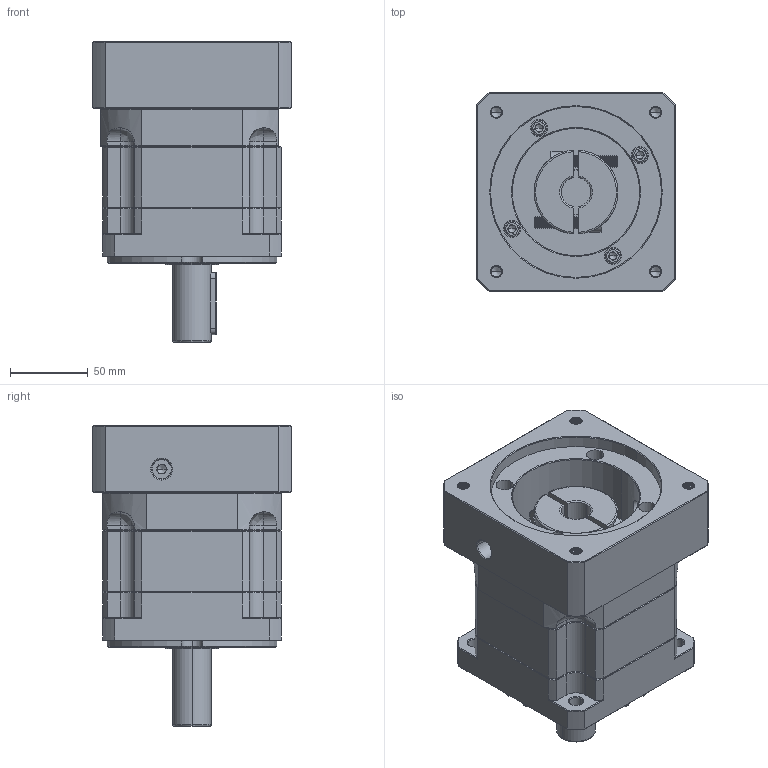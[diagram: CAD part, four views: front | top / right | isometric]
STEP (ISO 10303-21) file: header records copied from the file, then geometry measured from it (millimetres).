
FILE_DESCRIPTION (( 'STEP AP214' ), '1' );
FILE_NAME ('ZB115A-D25-L1-19-110-145-M8.step', '2023-03-02T08:55:38', ( '' ), ( 'Microsoft' ), 'SwSTEP 2.0', 'SolidWorks 2016', '' );
FILE_SCHEMA (( 'AUTOMOTIVE_DESIGN' ));
Length unit declared in the file: millimetre
Products named in the file (1): ZB115A-D25-L1-19-110-145-M8
Bounding box: 128 x 128 x 193.5 mm (x, y, z)
Volume: 1613843.7 mm3; surface area: 177753.6 mm2
Topology: 6 solids, 6 shells, 2113 faces, 5462 edges, 3443 vertices
Faces by surface type: plane 963, cylinder 439, cone 366, bspline 325, torus 20
Entity records: 113062 total; most frequent: CARTESIAN_POINT 41188, ORIENTED_EDGE 10856, DIRECTION 8901, EDGE_CURVE 5428, VERTEX_POINT 3443, VECTOR 3371, LINE 3371, AXIS2_PLACEMENT_3D 2765
